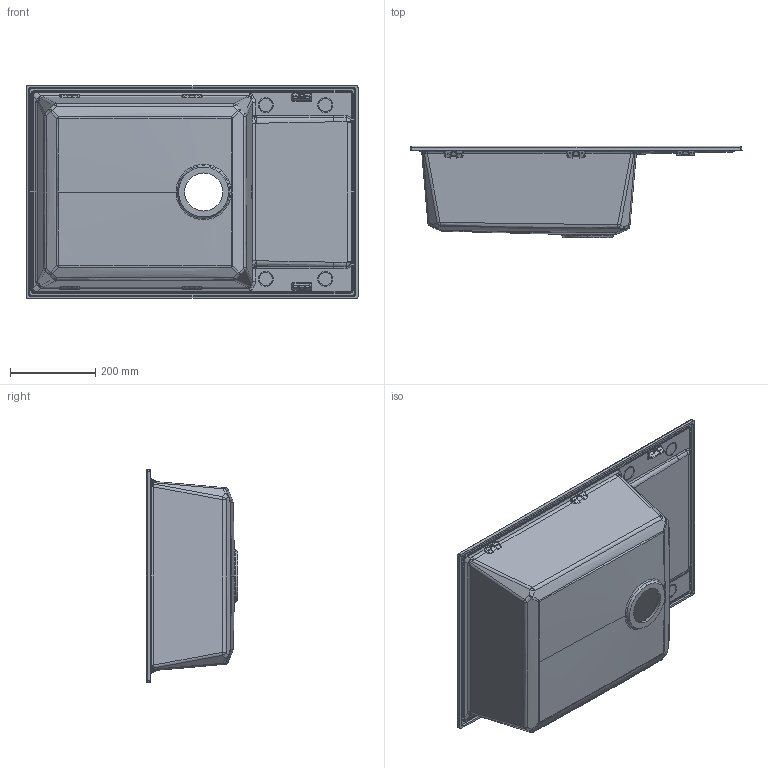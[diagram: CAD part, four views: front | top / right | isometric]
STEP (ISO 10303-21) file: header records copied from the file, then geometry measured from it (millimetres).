
FILE_DESCRIPTION (( 'STEP AP203' ), '1' );
FILE_NAME ('Easy310.STEP', '2018-02-13T09:29:00', ( '' ), ( '' ), 'SwSTEP 2.0', 'SolidWorks 2013', '' );
FILE_SCHEMA (( 'CONFIG_CONTROL_DESIGN' ));
Length unit declared in the file: millimetre
Products named in the file (1): Easy310
Bounding box: 780 x 215.39 x 500 mm (x, y, z)
Volume: 5528405.5 mm3; surface area: 1382020.9 mm2
Topology: 1 solids, 7 shells, 736 faces, 1675 edges, 960 vertices
Faces by surface type: bspline 307, cylinder 236, plane 117, sphere 54, torus 12, cone 10
Entity records: 28898 total; most frequent: CARTESIAN_POINT 14727, ORIENTED_EDGE 3298, DIRECTION 2573, EDGE_CURVE 1649, AXIS2_PLACEMENT_3D 1065, VERTEX_POINT 952, EDGE_LOOP 765, ADVANCED_FACE 736
